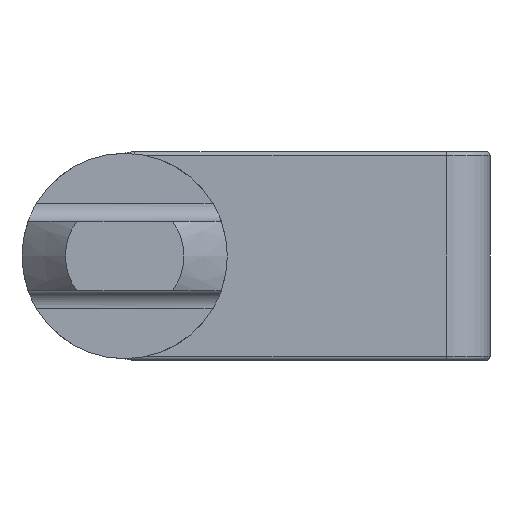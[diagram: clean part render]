
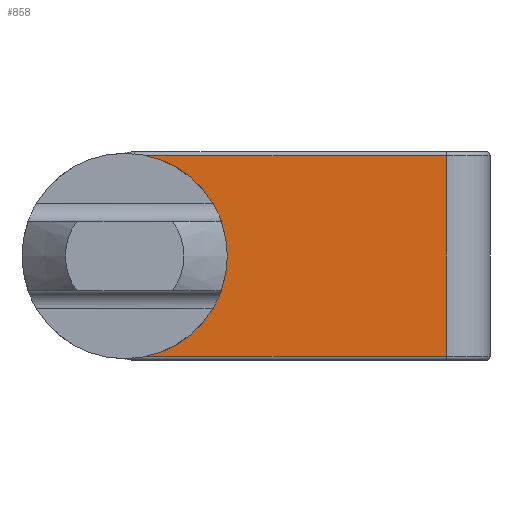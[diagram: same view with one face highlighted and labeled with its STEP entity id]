
A CAD part, left-side view. The second image highlights one B-rep face of the part: STEP entity #858.
In plain terms, the highlighted planar face has unit normal (-1, 0, 0).
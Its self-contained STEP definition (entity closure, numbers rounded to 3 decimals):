
#156 = ORIENTED_EDGE ( 'NONE', *, *, #1153, .T. ) ;
#453 = VERTEX_POINT ( 'NONE', #717 ) ;
#717 = CARTESIAN_POINT ( 'NONE',  ( -25.15, 20.428, -5.75 ) ) ;
#858 = ADVANCED_FACE ( 'NONE', ( #9525 ), #10203, .T. ) ;
#864 = ORIENTED_EDGE ( 'NONE', *, *, #1353, .T. ) ;
#1153 = EDGE_CURVE ( 'NONE', #4952, #2506, #7372, .T. ) ;
#1174 = EDGE_CURVE ( 'NONE', #2506, #7003, #3389, .T. ) ;
#1207 = EDGE_CURVE ( 'NONE', #7003, #5097, #7107, .T. ) ;
#1230 = EDGE_CURVE ( 'NONE', #5097, #4881, #4301, .T. ) ;
#1247 = EDGE_CURVE ( 'NONE', #4881, #10772, #6597, .T. ) ;
#1269 = EDGE_CURVE ( 'NONE', #10772, #3099, #6324, .T. ) ;
#1299 = LINE ( 'NONE', #10098, #10068 ) ;
#1309 = EDGE_CURVE ( 'NONE', #3099, #2487, #6053, .T. ) ;
#1326 = EDGE_CURVE ( 'NONE', #2487, #5985, #10842, .T. ) ;
#1341 = EDGE_CURVE ( 'NONE', #5985, #453, #8319, .T. ) ;
#1353 = EDGE_CURVE ( 'NONE', #453, #4952, #1299, .T. ) ;
#1578 = VECTOR ( 'NONE', #5070, 1000. ) ;
#2038 = ORIENTED_EDGE ( 'NONE', *, *, #1247, .T. ) ;
#2077 = DIRECTION ( 'NONE',  ( 0., 0., 1. ) ) ;
#2135 = CARTESIAN_POINT ( 'NONE',  ( -25.15, 2.5, 6. ) ) ;
#2487 = VERTEX_POINT ( 'NONE', #5417 ) ;
#2506 = VERTEX_POINT ( 'NONE', #7979 ) ;
#2569 = VECTOR ( 'NONE', #2734, 1000. ) ;
#2599 = CARTESIAN_POINT ( 'NONE',  ( -25.15, 20.428, 5.75 ) ) ;
#2734 = DIRECTION ( 'NONE',  ( 0., 1., 0. ) ) ;
#3099 = VERTEX_POINT ( 'NONE', #6950 ) ;
#3389 = LINE ( 'NONE', #2599, #2569 ) ;
#3418 = ORIENTED_EDGE ( 'NONE', *, *, #1269, .T. ) ;
#3534 = CARTESIAN_POINT ( 'NONE',  ( -25.15, 20.428, 4.49 ) ) ;
#3550 = CARTESIAN_POINT ( 'NONE',  ( -25.15, 20.754, 5.707 ) ) ;
#3560 = DIRECTION ( 'NONE',  ( -1., 0., 0. ) ) ;
#3583 = EDGE_LOOP ( 'NONE', ( #156, #5509, #9176, #10508, #2038, #3418, #9092, #9332, #10204, #864 ) ) ;
#3604 = DIRECTION ( 'NONE',  ( 0., -1., 0. ) ) ;
#4153 = CARTESIAN_POINT ( 'NONE',  ( -25.15, 21.16, 5.648 ) ) ;
#4301 = LINE ( 'NONE', #3550, #8580 ) ;
#4319 = DIRECTION ( 'NONE',  ( 0., 0.966, -0.259 ) ) ;
#4572 = CARTESIAN_POINT ( 'NONE',  ( -25.15, 21.21, 7.407 ) ) ;
#4881 = VERTEX_POINT ( 'NONE', #9368 ) ;
#4952 = VERTEX_POINT ( 'NONE', #7739 ) ;
#5070 = DIRECTION ( 'NONE',  ( 0., -0.966, -0.259 ) ) ;
#5097 = VERTEX_POINT ( 'NONE', #5369 ) ;
#5324 = CARTESIAN_POINT ( 'NONE',  ( -25.15, 21., 0. ) ) ;
#5369 = CARTESIAN_POINT ( 'NONE',  ( -25.15, 20.754, 5.707 ) ) ;
#5417 = CARTESIAN_POINT ( 'NONE',  ( -25.15, 20.754, -5.707 ) ) ;
#5480 = DIRECTION ( 'NONE',  ( 1., 0., 0. ) ) ;
#5493 = DIRECTION ( 'NONE',  ( -1., 0., 0. ) ) ;
#5509 = ORIENTED_EDGE ( 'NONE', *, *, #1174, .T. ) ;
#5699 = DIRECTION ( 'NONE',  ( 0., -1., 0. ) ) ;
#5825 = DIRECTION ( 'NONE',  ( 0., -1., 0. ) ) ;
#5985 = VERTEX_POINT ( 'NONE', #10729 ) ;
#6053 = CIRCLE ( 'NONE', #6947, 1.76 ) ;
#6324 = CIRCLE ( 'NONE', #7301, 5.65 ) ;
#6597 = CIRCLE ( 'NONE', #7534, 1.76 ) ;
#6947 = AXIS2_PLACEMENT_3D ( 'NONE', #9155, #9000, #8160 ) ;
#6950 = CARTESIAN_POINT ( 'NONE',  ( -25.15, 21.16, -5.648 ) ) ;
#7003 = VERTEX_POINT ( 'NONE', #7293 ) ;
#7094 = AXIS2_PLACEMENT_3D ( 'NONE', #7136, #7145, #7158 ) ;
#7107 = CIRCLE ( 'NONE', #7673, 1.26 ) ;
#7136 = CARTESIAN_POINT ( 'NONE',  ( -25.15, 20.428, -4.49 ) ) ;
#7145 = DIRECTION ( 'NONE',  ( -1., 0., 0. ) ) ;
#7158 = DIRECTION ( 'NONE',  ( 0., -1., 0. ) ) ;
#7293 = CARTESIAN_POINT ( 'NONE',  ( -25.15, 20.428, 5.75 ) ) ;
#7301 = AXIS2_PLACEMENT_3D ( 'NONE', #5324, #5493, #5825 ) ;
#7348 = DIRECTION ( 'NONE',  ( 0., -1., 0. ) ) ;
#7372 = LINE ( 'NONE', #2135, #9393 ) ;
#7534 = AXIS2_PLACEMENT_3D ( 'NONE', #4572, #5480, #7348 ) ;
#7673 = AXIS2_PLACEMENT_3D ( 'NONE', #3534, #3560, #3604 ) ;
#7739 = CARTESIAN_POINT ( 'NONE',  ( -25.15, 2.5, -5.75 ) ) ;
#7979 = CARTESIAN_POINT ( 'NONE',  ( -25.15, 2.5, 5.75 ) ) ;
#8160 = DIRECTION ( 'NONE',  ( 0., -1., 0. ) ) ;
#8319 = CIRCLE ( 'NONE', #7094, 1.26 ) ;
#8580 = VECTOR ( 'NONE', #4319, 1000. ) ;
#9000 = DIRECTION ( 'NONE',  ( 1., 0., 0. ) ) ;
#9025 = CARTESIAN_POINT ( 'NONE',  ( -25.15, 20.754, -5.707 ) ) ;
#9092 = ORIENTED_EDGE ( 'NONE', *, *, #1309, .T. ) ;
#9155 = CARTESIAN_POINT ( 'NONE',  ( -25.15, 21.21, -7.407 ) ) ;
#9176 = ORIENTED_EDGE ( 'NONE', *, *, #1207, .T. ) ;
#9332 = ORIENTED_EDGE ( 'NONE', *, *, #1326, .T. ) ;
#9368 = CARTESIAN_POINT ( 'NONE',  ( -25.15, 20.754, 5.707 ) ) ;
#9393 = VECTOR ( 'NONE', #2077, 1000. ) ;
#9410 = AXIS2_PLACEMENT_3D ( 'NONE', #10187, #10220, #10221 ) ;
#9525 = FACE_OUTER_BOUND ( 'NONE', #3583, .T. ) ;
#10068 = VECTOR ( 'NONE', #5699, 1000. ) ;
#10098 = CARTESIAN_POINT ( 'NONE',  ( -25.15, 2.5, -5.75 ) ) ;
#10187 = CARTESIAN_POINT ( 'NONE',  ( -25.15, 21., 0. ) ) ;
#10203 = PLANE ( 'NONE',  #9410 ) ;
#10204 = ORIENTED_EDGE ( 'NONE', *, *, #1341, .T. ) ;
#10220 = DIRECTION ( 'NONE',  ( -1., 0., 0. ) ) ;
#10221 = DIRECTION ( 'NONE',  ( 0., -1., 0. ) ) ;
#10508 = ORIENTED_EDGE ( 'NONE', *, *, #1230, .T. ) ;
#10729 = CARTESIAN_POINT ( 'NONE',  ( -25.15, 20.754, -5.707 ) ) ;
#10772 = VERTEX_POINT ( 'NONE', #4153 ) ;
#10842 = LINE ( 'NONE', #9025, #1578 ) ;
